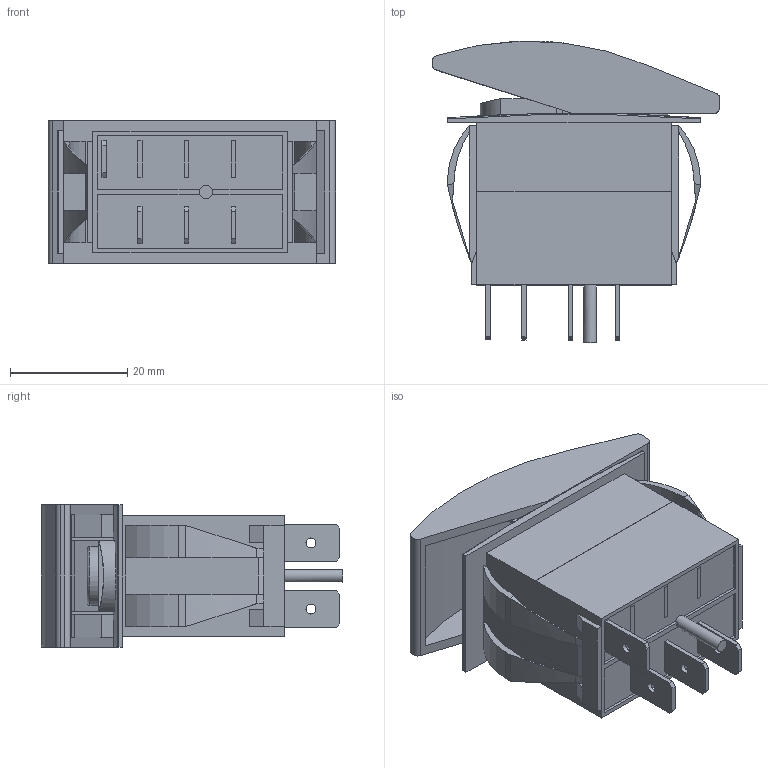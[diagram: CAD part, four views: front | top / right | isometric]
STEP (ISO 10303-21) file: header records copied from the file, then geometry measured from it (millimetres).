
FILE_DESCRIPTION(/* description */ (''),/* implementation_level */ '2;1');
FILE_NAME(/* name */ 'SRD2-1F-DC-1-BUU.stp',/* time_stamp */ '2024-05-20T08:23:56-07:00',/* author */ ('tylerl'),/* organization */ (''),/* preprocessor_version */ 'ST-DEVELOPER v20',/* originating_system */ 'Autodesk Inventor 2025',/* authorisation */ '');
FILE_SCHEMA (('AUTOMOTIVE_DESIGN { 1 0 10303 214 3 1 1 }'));
Products named in the file (4): SRD2-1F-DC-1-BUU-W; Base; Switch Base; Top Switch
Assembly tree (3 placements, depth 2):
  SRD2-1F-DC-1-BUU-W
    Base
    Switch Base
    Top Switch
Bounding box: 49.19 x 51.54 x 24.4 mm (x, y, z)
Volume: 25498.2 mm3; surface area: 12927.9 mm2
Topology: 3 solids, 3 shells, 250 faces, 642 edges, 399 vertices
Faces by surface type: plane 212, cylinder 35, torus 3
Full cylindrical faces by diameter (mm): 1.7 x4, 2.2 x1, 10 x1
Entity records: 7644 total; most frequent: CARTESIAN_POINT 1351, ORIENTED_EDGE 1284, DIRECTION 1246, EDGE_CURVE 642, LINE 544, VECTOR 544, VERTEX_POINT 399, AXIS2_PLACEMENT_3D 351
